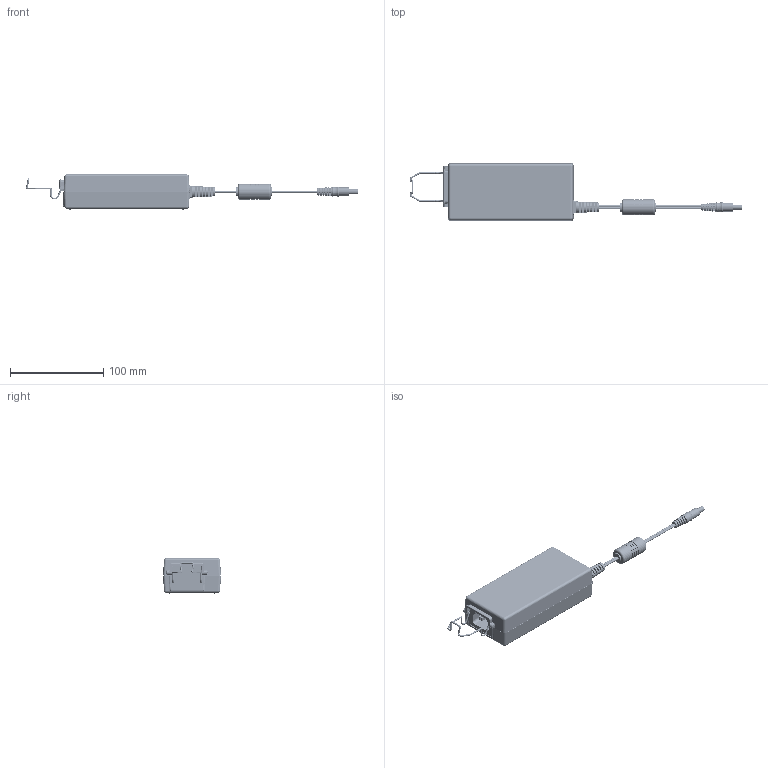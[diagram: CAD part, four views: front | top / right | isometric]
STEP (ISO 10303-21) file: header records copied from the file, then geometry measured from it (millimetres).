
FILE_DESCRIPTION (( 'STEP AP203' ), '1' );
FILE_NAME ('FA_ALM85_C.STEP', '2016-10-03T03:06:00', ( '' ), ( '' ), 'SwSTEP 2.0', 'SolidWorks 2016', '' );
FILE_SCHEMA (( 'CONFIG_CONTROL_DESIGN' ));
Length unit declared in the file: millimetre
Products named in the file (66): BARREL PLUG 5521TVM230-1T00-02; RT1_1; 10020083_BOTTOM COVER ALM85_01; L_BEND_LEAD; rubber foot; 10020252_03; Capacitor Elec_10mm D_20mm; Washer Flat M3 7MM OD(10001676)_M3 (.5 MM THICK); 10017287(CABLE ASSY AWG16-2C); 10020253_ALM85-HS2; VAR OD 12_0.300" C; 10017443(IEC320-C14); 10020090_CLIP; ALM85_PCB; 10010048 Bridge Rectifier_US4K 80R_Lead trimed; 10020795 CAP 0.33UF 310V 10% X2 18.5 X 15.5 X 8 P=15MM; 10020253-tatle; ALM85_PCB_31_03; 10020253_03; RV1 tube; 10007094_FUSE 3.15A SQ; FA_ALM85_C; 10020082 TOP COVER1 ALM85_01_37; 10020754_SELF TAPPING SCREW M3x6_5; L1; C11_COVER; PQ3225; 10018192_BUSHING; RV1 W TUBE; 10020798 CAP 470UF 63V 1.99A10KHRS_20mm; 10020755_EMI TOP AL SHIELD ALM85; TO-220FP; Capacitor Disc_8mm(10.4mm)_0.300" C; 10020797_CAP 82UF 400V 0.64A 18X25_20mm; coil_ALM85; 10001680(NUT HEX M3 KEPS); Capacitor Disc_8mm (8.5mm pitch)_lied_0.300" C; 10020802_Resistor 3.0W OD_5mm; 10020254_EMI SHIELD ALM85; Tape for heatsink1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
Assembly tree (86 placements, depth 5):
  FA_ALM85_C
    10020083_BOTTOM COVER ALM85_01
    ALM85_PCB
      10017443(IEC320-C14)
      10007094_FUSE 3.15A SQ  x2
      10020798 CAP 470UF 63V 1.99A10KHRS_20mm  x2
      10020802_Resistor 3.0W OD_5mm
      Capacitor Elec_05mm D_13mm H
      Capacitor Disc_8mm (8.1mm pitch)_0.300" C  x2
      R5
      RT1_1
      RV1 W TUBE
        VAR OD 12_0.300" C
        RV1 tube
      Capacitor Disc_8mm (8.5mm pitch)_lied_0.300" C
      10017287(CABLE ASSY AWG16-2C)
        SR
        CORE MOULD
        BARREL MOULD
        BARREL PLUG 5521TVM230-1T00-02
      ALM85_PCB_31_03
      Main_trans_alm85
        PQ3225  x2
        coil_ALM85
        10020750_BOBBIN_PQ3225 CUSTOM ALM85
        Wire_A
        Wire_B
      Capacitor Elec_10mm D_20mm
      10020795 CAP 0.33UF 310V 10% X2 18.5 X 15.5 X 8 P=15MM
      L1  x2
      Capacitor Disc_8mm(10.4mm)_0.300" C
      c1_0.300" C
      10020252_TOTAL
        10020252_03
          10020252_Heatsink_short_ahm85
          10018265
          tape_3
        10010048 Bridge Rectifier_US4K 80R_Lead trimed
        10020754_SELF TAPPING SCREW M3x6_5  x2
        TO-220FP
        Tape for heatsink1
      10020253-tatle
        10020253_03
          10020253_ALM85-HS2
          10018265  x2
        10018192_BUSHING
        10001680(NUT HEX M3 KEPS)
        10010221(INSUL T0 220)
        TO220_3P_01
        TAPE FOR HEATSINK2
        10016838 SCREW M3X9 90DEG
        Washer Flat M3 7MM OD(10001676)_M3 (.5 MM THICK)
      C10_ASSY  x2
        C11_COVER
        10020797_CAP 82UF 400V 0.64A 18X25_20mm
      Diode_DO-41
      Capacitor Disc_0.300 D_0.300" C  x2
      10017279
      rubber foot  x3
    10020082 TOP COVER1 ALM85_01_37
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Bounding box: 355.69 x 62 x 38 mm (x, y, z)
Volume: 173351.5 mm3; surface area: 256947.2 mm2
Topology: 222 solids, 222 shells, 5769 faces, 13766 edges, 8376 vertices
Faces by surface type: plane 2107, torus 1803, cylinder 1065, bspline 653, cone 113, sphere 28
Entity records: 214654 total; most frequent: CARTESIAN_POINT 83503, DIRECTION 26214, ORIENTED_EDGE 25578, EDGE_CURVE 12789, AXIS2_PLACEMENT_3D 10334, VERTEX_POINT 7770, EDGE_LOOP 5889, VECTOR 5546
